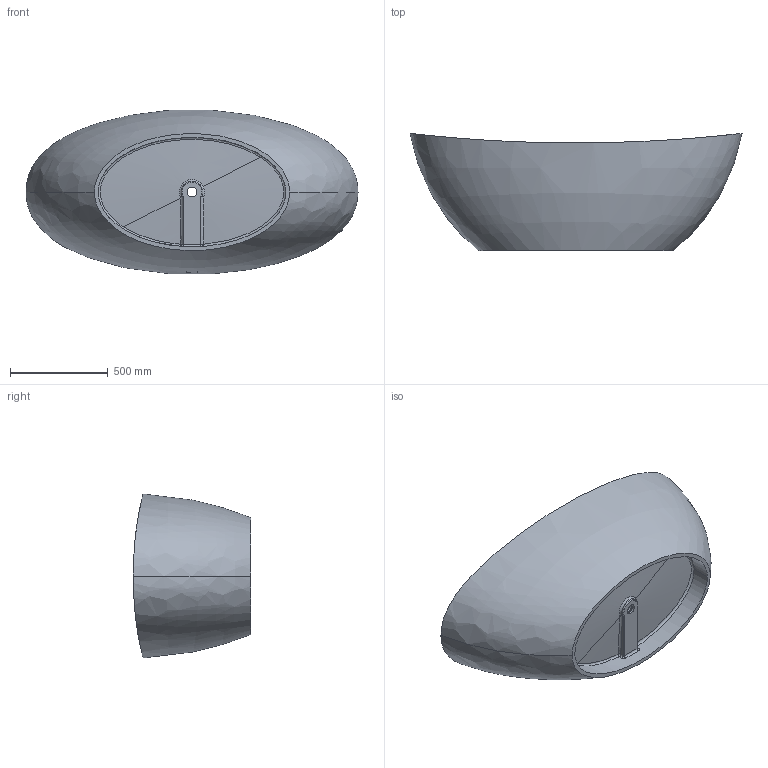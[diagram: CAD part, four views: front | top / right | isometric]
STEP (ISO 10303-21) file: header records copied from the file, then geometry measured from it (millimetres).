
FILE_DESCRIPTION (( 'STEP AP203' ), '1' );
FILE_NAME ('TC-S52.STEP', '2017-03-02T02:15:23', ( '' ), ( '' ), 'SwSTEP 2.0', 'SolidWorks 2016', '' );
FILE_SCHEMA (( 'CONFIG_CONTROL_DESIGN' ));
Length unit declared in the file: millimetre
Products named in the file (1): TC-S52
Bounding box: 1700 x 600 x 839.48 mm (x, y, z)
Volume: 67713552.9 mm3; surface area: 5326091.7 mm2
Topology: 1 solids, 1 shells, 75 faces, 187 edges, 113 vertices
Faces by surface type: bspline 35, cylinder 19, plane 13, torus 3, sphere 3, cone 2
Entity records: 18767 total; most frequent: CARTESIAN_POINT 17232, ORIENTED_EDGE 358, DIRECTION 220, EDGE_CURVE 179, VERTEX_POINT 108, AXIS2_PLACEMENT_3D 87, EDGE_LOOP 79, B_SPLINE_CURVE_WITH_KNOTS 77
